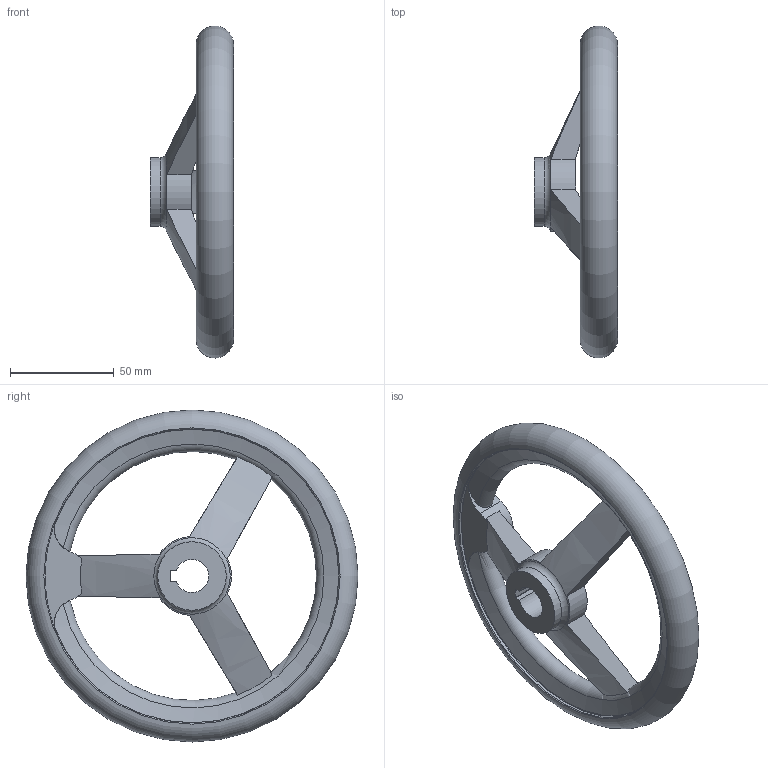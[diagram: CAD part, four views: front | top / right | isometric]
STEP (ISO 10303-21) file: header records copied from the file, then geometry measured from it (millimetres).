
FILE_DESCRIPTION( ( 'STEP AP203' ), '1' );
FILE_NAME( 'C:/Temp/Ganter_Step_05_03_2020/data/1_3/din_950/din_950_k/din_950_k_a/Handwheel DIN 950-GG-160-K16-A.stp', '2020-03-05T10:30:34', ( 'License CC BY-ND 4.0' ), ( 'CADENAS' ), ' ', 'PARTsolutions', ' ' );
FILE_SCHEMA( ( 'CONFIG_CONTROL_DESIGN' ) );
Length unit declared in the file: millimetre
Products named in the file (1): _Handwheel DIN 950-GG-160-K16-A
Bounding box: 40 x 159.99 x 159.99 mm (x, y, z)
Volume: 150832.5 mm3; surface area: 39083.7 mm2
Topology: 1 solids, 1 shells, 40 faces, 116 edges, 74 vertices
Faces by surface type: cylinder 13, plane 13, torus 10, cone 4
Full cylindrical faces by diameter (mm): 33 x2, 142 x2
Entity records: 1592 total; most frequent: CARTESIAN_POINT 582, ORIENTED_EDGE 198, DIRECTION 192, EDGE_CURVE 99, AXIS2_PLACEMENT_3D 85, VERTEX_POINT 71, EDGE_LOOP 57, FACE_OUTER_BOUND 51
